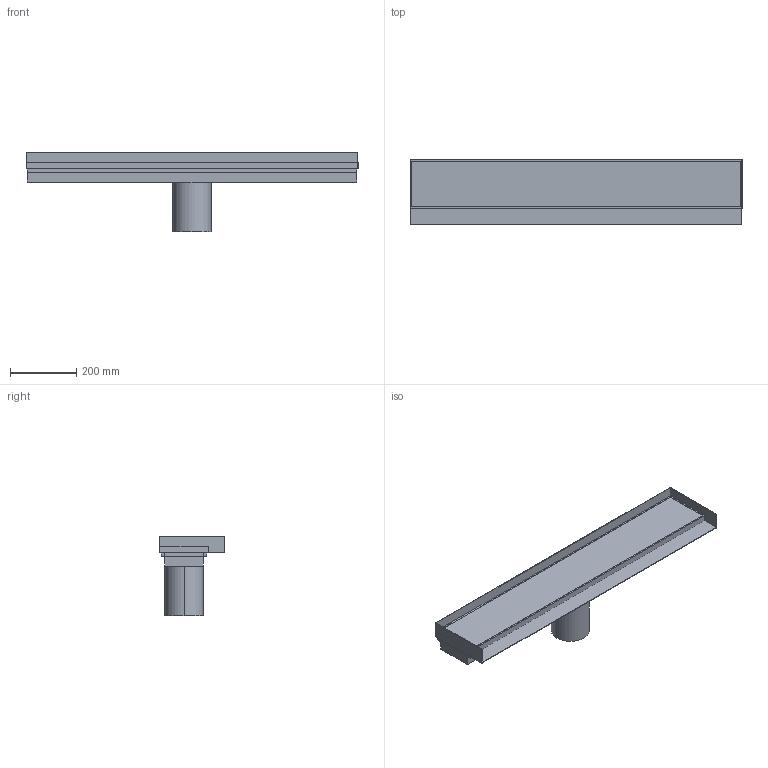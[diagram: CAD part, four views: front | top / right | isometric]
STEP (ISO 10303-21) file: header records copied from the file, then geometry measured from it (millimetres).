
FILE_DESCRIPTION(/* description */ (''),/* implementation_level */ '2;1');
FILE_NAME(/* name */ 'E:\Workspace\resitec\Packs\Kategorie\Entwässerungsrinne\STP\RS770K.045Entwässerungsrinne Rand 4.5mm-3xZargeH+L+R-1xKR50V.s.ipt.stp',/* time_stamp */ '2020-10-04T20:55:55+02:00',/* author */ ('ndmes'),/* organization */ (''),/* preprocessor_version */ 'ST-DEVELOPER v18.1',/* originating_system */ 'Autodesk Inventor 2021',/* authorisation */ '');
FILE_SCHEMA (('AUTOMOTIVE_DESIGN { 1 0 10303 214 3 1 1 }'));
Length unit declared in the file: millimetre
Products named in the file (1): RS770K.045Entwässerungsrinne Rand 4.5mm-3xZargeH+L+R-1xKR50V.s
Bounding box: 1000 x 198 x 240 mm (x, y, z)
Volume: 11122427.3 mm3; surface area: 1658487.6 mm2
Topology: 9 solids, 9 shells, 57 faces, 117 edges, 78 vertices
Faces by surface type: plane 55, cylinder 2
Entity records: 1512 total; most frequent: CARTESIAN_POINT 253, DIRECTION 237, ORIENTED_EDGE 234, EDGE_CURVE 117, LINE 113, VECTOR 113, VERTEX_POINT 78, AXIS2_PLACEMENT_3D 62
